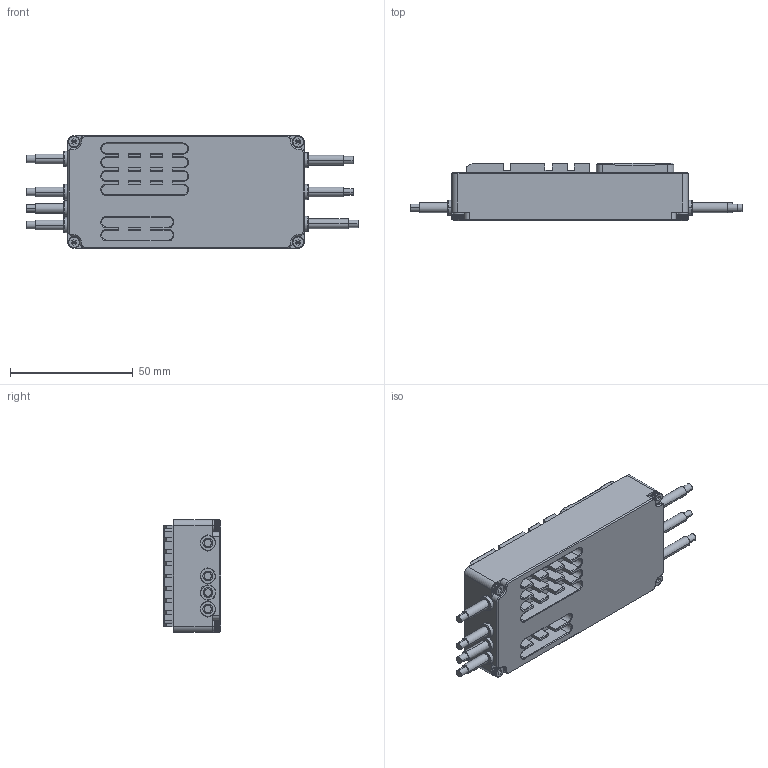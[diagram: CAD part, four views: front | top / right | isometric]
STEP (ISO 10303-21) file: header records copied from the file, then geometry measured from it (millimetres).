
FILE_DESCRIPTION((''),'2;1');
FILE_NAME('LMK','2023-08-05T16:25:37',('22429'),(''),'CREO PARAMETRIC BY PTC INC, 2021063','CREO PARAMETRIC BY PTC INC, 2021063','');
FILE_SCHEMA(('CONFIG_CONTROL_DESIGN'));
Products named in the file (1): LMK
Bounding box: 135.5 x 23.5 x 46 mm (x, y, z)
Volume: 30367 mm3; surface area: 40866.7 mm2
Topology: 1 solids, 8 shells, 2146 faces, 5443 edges, 3504 vertices
Faces by surface type: plane 1663, cylinder 349, cone 86, torus 41, bspline 4, sphere 3
Entity records: 64228 total; most frequent: CARTESIAN_POINT 11544, ORIENTED_EDGE 10878, DIRECTION 10801, EDGE_CURVE 5439, VECTOR 4217, LINE 4217, VERTEX_POINT 3504, AXIS2_PLACEMENT_3D 3292
